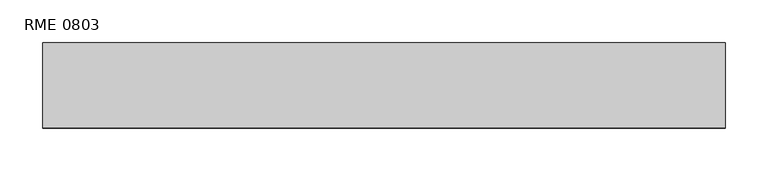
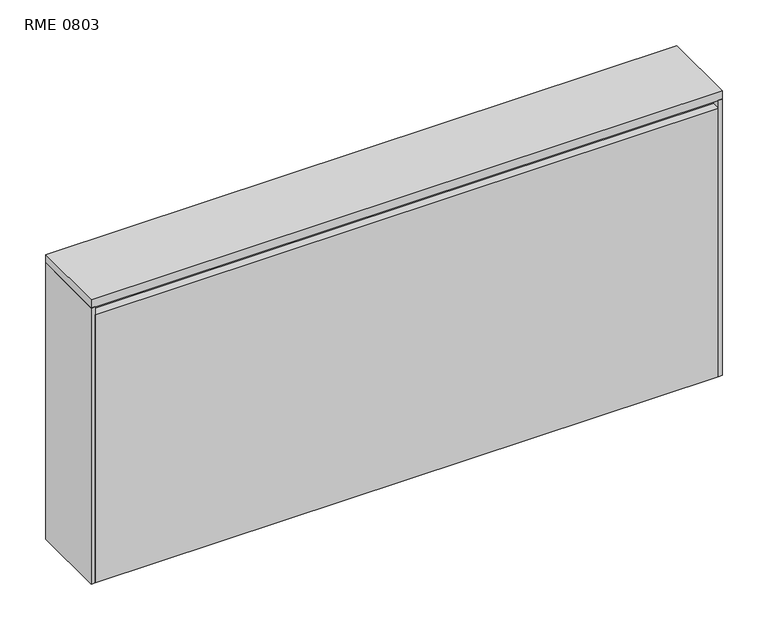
"""IFC4 building model written with IfcOpenShell, lengths in millimetres: furniture geometry, Mobiliário_MobiliáriodeEscritório_LinhaReasons_PainelEmpilhável381mm-Melamina_Marelli : RME 0803."""

from ifc_helpers import new_model, si_unit, frame, origin, origin_with_axes, place, context, project, spatial, polyline, outline, extrude, source, transform, mapped, element, save


def rme_0803_7866bef5(model_context):
    return source(origin(), model_context, "Body", "SweptSolid", [
        extrude(outline(polyline([(795.0, 100.0), (800.0, 100.0), (800.0, 0.0), (795.0, 0.0), (795.0, 100.0)])), origin_with_axes(), (0.0, 0.0, 1.0), 370.0),
        extrude(outline(polyline([(5.0, 11.0), (5.0, 89.0), (795.0, 89.0), (795.0, 11.0), (5.0, 11.0)])), origin_with_axes(), (0.0, 0.0, 1.0), 370.0),
        extrude(outline(polyline([(0.0, 100.0), (5.0, 100.0), (5.0, 0.0), (0.0, 0.0), (0.0, 100.0)])), origin_with_axes(), (0.0, 0.0, 1.0), 370.0),
        extrude(outline(polyline([(795.0, 11.0), (795.0, 0.0), (5.0, 0.0), (5.0, 11.0), (795.0, 11.0)])), origin_with_axes(), (0.0, 0.0, 1.0), 359.5),
        extrude(outline(polyline([(795.0, 100.0), (795.0, 89.0), (5.0, 89.0), (5.0, 100.0), (795.0, 100.0)])), origin_with_axes(), (0.0, 0.0, 1.0), 359.5),
        extrude(outline(polyline([(800.0, 100.0), (800.0, 0.0), (0.0, 0.0), (0.0, 100.0), (800.0, 100.0)])), frame((0.0, 0.0, 370.0), z_axis=(0.0, 0.0, 1.0), x_axis=(1.0, 0.0, 0.0)), (0.0, 0.0, 1.0), 11.0),
    ])


if __name__ == "__main__":
    model = new_model("IFC4")
    model_context = context("Model", 3, world=origin())
    ifc_project = project(units=[si_unit("LENGTHUNIT", "METRE", prefix="MILLI")], contexts=[model_context])
    site = spatial("IfcSite", under=ifc_project)
    building = spatial("IfcBuilding", under=site)
    placement = place(None, origin())
    rme_0803_shape = rme_0803_7866bef5(model_context)
    element("IfcFurniture", 1, ObjectType="Mobiliário_MobiliáriodeEscritório_LinhaReasons_PainelEmpilhável381mm-Melamina_Marelli : RME 0803", at=placement, inside=building, context=model_context, shape_type="MappedRepresentation", body=[
        mapped(rme_0803_shape, transform((0.0, 0.0, 0.0), x_axis=(1.0, 0.0, 0.0), y_axis=(0.0, 1.0, 0.0), z_axis=(0.0, 0.0, 1.0))),
    ])
    save(model, "model.ifc")
